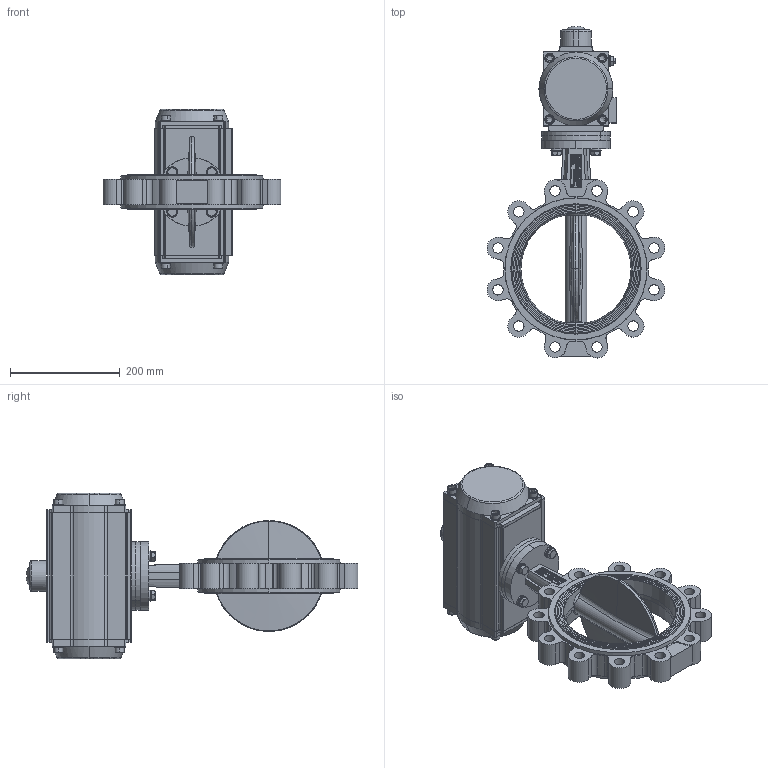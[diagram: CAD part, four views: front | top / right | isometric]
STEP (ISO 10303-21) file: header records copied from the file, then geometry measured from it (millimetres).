
FILE_DESCRIPTION (( 'STEP AP214' ), '1' );
FILE_NAME ('VPG464X-N03XX0200.step', '2022-06-27T15:51:21', ( '' ), ( '' ), 'SwSTEP 2.0', 'SolidWorks 2020', '' );
FILE_SCHEMA (( 'AUTOMOTIVE_DESIGN' ));
Length unit declared in the file: millimetre
Products named in the file (1): VPG464X-N03XX0200
Bounding box: 324.87 x 605.92 x 302 mm (x, y, z)
Surface area: 617577.7 mm2 (no closed solid volume)
Topology: 0 solids, 85 shells, 733 faces, 4241 edges, 3583 vertices
Faces by surface type: plane 325, cylinder 264, bspline 71, cone 69, torus 4
Entity records: 65177 total; most frequent: CARTESIAN_POINT 26461, ORIENTED_EDGE 5783, DIRECTION 5402, EDGE_CURVE 4236, VERTEX_POINT 3583, VECTOR 2236, LINE 2236, AXIS2_PLACEMENT_3D 1583
